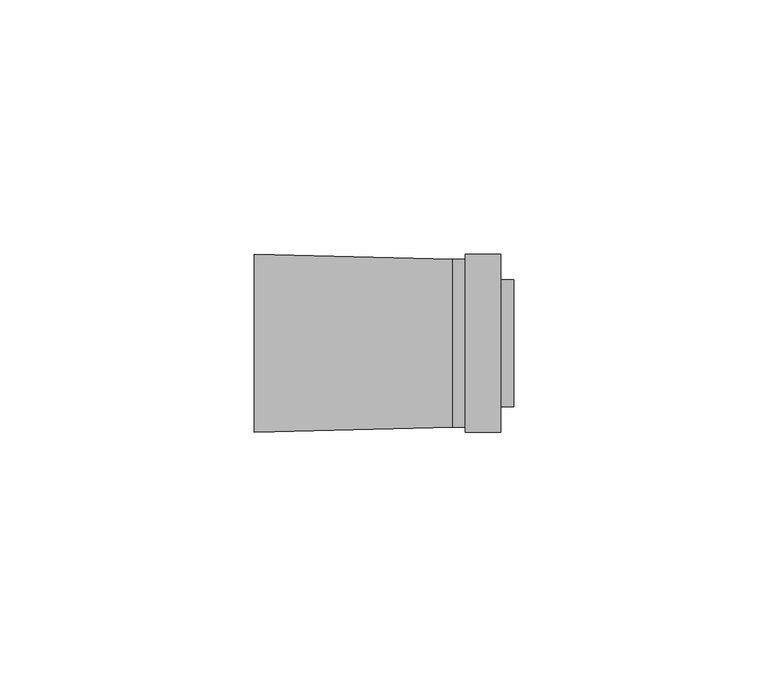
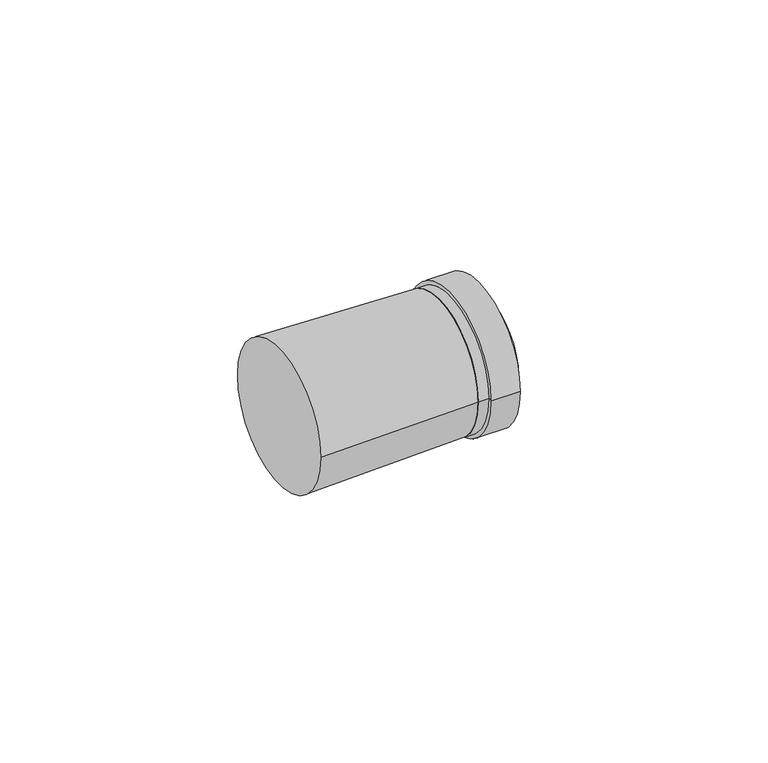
"""IFC4 building model written with IfcOpenShell, lengths in millimetres: cable carrier fitting geometry."""

from ifc_helpers import new_model, si_unit, frame, origin, place, context, project, spatial, polyline, circle_curve, source, transform, mapped, element, save
from ifc_brep_helpers import plane_surface, cylinder_surface, revolved_surface, advanced_brep


def cable_carrier_fitting_911b79ea(model_context):
    return source(origin(), model_context, "Body", "AdvancedBrep", [
        advanced_brep(
        [(25.5, -12.5, 0.0), (25.5, 12.5, 0.0), (25.5, 0.0, 0.0), (23.0, -12.5, 0.0), (23.0, 12.5, 0.0), (23.0, -17.5, 0.0), (23.0, 17.5, 0.0), (16.0, -17.5, 0.0), (16.0, 17.5, 0.0), (16.0, -16.5, 0.0), (16.0, 16.5, 0.0), (13.5, -16.5, 0.0), (13.5, 16.5, 0.0), (13.5, 0.0, 0.0)],
        [
            (0, 1, circle_curve(frame((25.5, 0.0, 0.0), z_axis=(1.0, 0.0, 0.0), x_axis=(0.0, 1.0, 0.0)), 12.5)),
            (1, 2),
            (2, 0),
            (1, 0, circle_curve(frame((25.5, 0.0, 0.0), z_axis=(1.0, 0.0, 0.0), x_axis=(0.0, 1.0, 0.0)), 12.5)),
            (3, 4, circle_curve(frame((23.0, 0.0, 0.0), z_axis=(1.0, 0.0, 0.0), x_axis=(0.0, 1.0, 0.0)), 12.5)),
            (4, 1),
            (0, 3),
            (4, 3, circle_curve(frame((23.0, 0.0, 0.0), z_axis=(1.0, 0.0, 0.0), x_axis=(0.0, 1.0, 0.0)), 12.5)),
            (5, 6, circle_curve(frame((23.0, 0.0, 0.0), z_axis=(1.0, 0.0, 0.0), x_axis=(0.0, 1.0, 0.0)), 17.5)),
            (6, 4),
            (3, 5),
            (6, 5, circle_curve(frame((23.0, 0.0, 0.0), z_axis=(1.0, 0.0, 0.0), x_axis=(0.0, 1.0, 0.0)), 17.5)),
            (7, 8, circle_curve(frame((16.0, 0.0, 0.0), z_axis=(1.0, 0.0, 0.0), x_axis=(0.0, 1.0, 0.0)), 17.5)),
            (8, 6),
            (5, 7),
            (8, 7, circle_curve(frame((16.0, 0.0, 0.0), z_axis=(1.0, 0.0, 0.0), x_axis=(0.0, 1.0, 0.0)), 17.5)),
            (9, 10, circle_curve(frame((16.0, 0.0, 0.0), z_axis=(1.0, 0.0, 0.0), x_axis=(0.0, 1.0, 0.0)), 16.5)),
            (10, 8),
            (7, 9),
            (10, 9, circle_curve(frame((16.0, 0.0, 0.0), z_axis=(1.0, 0.0, 0.0), x_axis=(0.0, 1.0, 0.0)), 16.5)),
            (11, 12, circle_curve(frame((13.5, 0.0, 0.0), z_axis=(1.0, 0.0, 0.0), x_axis=(0.0, 1.0, 0.0)), 16.5)),
            (12, 10),
            (9, 11),
            (12, 11, circle_curve(frame((13.5, 0.0, 0.0), z_axis=(1.0, 0.0, 0.0), x_axis=(0.0, 1.0, 0.0)), 16.5)),
            (13, 12),
            (11, 13),
        ],
        [
            plane_surface(frame((25.5, 0.0, 0.0), z_axis=(1.0, 0.0, 0.0), x_axis=(0.0, 1.0, 0.0))),
            cylinder_surface(frame((1521.0, 0.0, 0.0), z_axis=(-1.0, 0.0, 0.0), x_axis=(0.0, 1.0, 0.0)), 12.5),
            plane_surface(frame((23.0, 0.0, 0.0), z_axis=(1.0, 0.0, 0.0), x_axis=(0.0, 1.0, 0.0))),
            cylinder_surface(frame((1521.0, 0.0, 0.0), z_axis=(-1.0, 0.0, 0.0), x_axis=(0.0, 1.0, 0.0)), 17.5),
            plane_surface(frame((16.0, 0.0, 0.0), z_axis=(-1.0, 0.0, 0.0), x_axis=(0.0, 1.0, 0.0))),
            cylinder_surface(frame((1521.0, 0.0, 0.0), z_axis=(-1.0, 0.0, 0.0), x_axis=(0.0, 1.0, 0.0)), 16.5),
            plane_surface(frame((13.5, 0.0, 0.0), z_axis=(-1.0, 0.0, 0.0), x_axis=(0.0, 1.0, 0.0))),
        ],
        [
            (0, [[1, 2, 3]]),
            (0, [[4, -3, -2]]),
            (1, [[5, 6, -1, 7]]),
            (1, [[8, -7, -4, -6]]),
            (2, [[9, 10, -5, 11]]),
            (2, [[12, -11, -8, -10]]),
            (3, [[13, 14, -9, 15]]),
            (3, [[16, -15, -12, -14]]),
            (4, [[17, 18, -13, 19]]),
            (4, [[20, -19, -16, -18]]),
            (5, [[21, 22, -17, 23]]),
            (5, [[24, -23, -20, -22]]),
            (6, [[25, -21, 26]]),
            (6, [[-26, -24, -25]]),
        ],
    ),
        advanced_brep(
        [(-25.5, -17.5, 0.0), (-25.5, 17.5, 0.0), (13.5, -16.5, 0.0), (13.5, 16.5, 0.0)],
        [
            (0, 1, circle_curve(frame((-25.5, 0.0, 0.0), z_axis=(-1.0, 0.0, 0.0), x_axis=(0.0, -1.0, 0.0)), 17.5)),
            (1, 0, circle_curve(frame((-25.5, 0.0, 0.0), z_axis=(-1.0, 0.0, 0.0), x_axis=(0.0, 1.0, 0.0)), 17.5)),
            (2, 3, circle_curve(frame((13.5, 0.0, 0.0), z_axis=(1.0, 0.0, 0.0), x_axis=(0.0, 1.0, 0.0)), 16.5)),
            (3, 2, circle_curve(frame((13.5, 0.0, 0.0), z_axis=(1.0, 0.0, 0.0), x_axis=(0.0, -1.0, 0.0)), 16.5)),
            (2, 0),
            (1, 3),
        ],
        [
            plane_surface(frame((-25.5, 0.0, 0.0), z_axis=(-1.0, 0.0, 0.0), x_axis=(0.0, 0.0, -1.0))),
            plane_surface(frame((13.5, 0.0, 0.0), z_axis=(1.0, 0.0, 0.0), x_axis=(0.0, 0.0, -1.0))),
            revolved_surface(polyline([(13.5, -16.5, 0.0), (-25.5, -17.5, 0.0)]), (657.0, 0.0, 0.0), (-1.0, 0.0, 0.0)),
            revolved_surface(polyline([(13.5, 16.5, 0.0), (-25.5, 17.5, 0.0)]), (657.0, 0.0, 0.0), (-1.0, 0.0, 0.0)),
        ],
        [
            (0, [[1, 2]]),
            (1, [[3, 4]]),
            (2, [[-3, 5, -2, 6]]),
            (3, [[-4, -6, -1, -5]]),
        ],
    ),
    ])


if __name__ == "__main__":
    model = new_model("IFC4")
    model_context = context("Model", 3, world=origin())
    ifc_project = project(units=[si_unit("LENGTHUNIT", "METRE", prefix="MILLI")], contexts=[model_context])
    site = spatial("IfcSite", under=ifc_project)
    building = spatial("IfcBuilding", under=site)
    placement = place(None, origin())
    cable_carrier_fitting_shape = cable_carrier_fitting_911b79ea(model_context)
    element("IfcCableCarrierFitting", 1, at=placement, inside=building, context=model_context, shape_type="MappedRepresentation", body=[
        mapped(cable_carrier_fitting_shape, transform((0.0, 0.0, 0.0), x_axis=(1.0, 0.0, 0.0), y_axis=(0.0, 1.0, 0.0), z_axis=(0.0, 0.0, 1.0))),
    ])
    save(model, "model.ifc")
